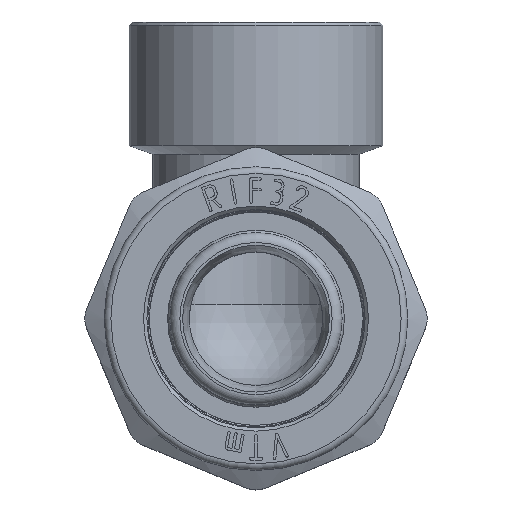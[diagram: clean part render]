
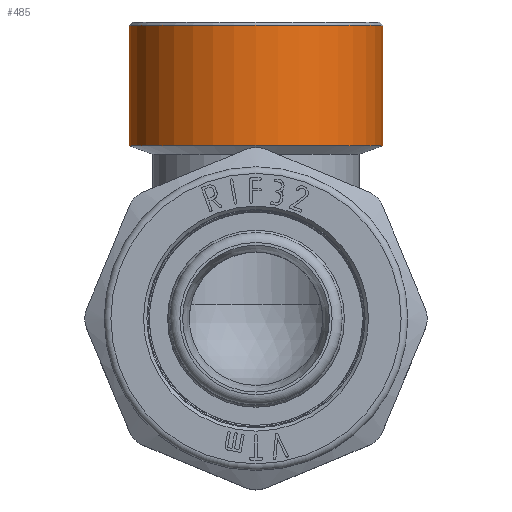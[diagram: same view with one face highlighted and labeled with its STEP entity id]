
A CAD part, top view. The second image highlights one B-rep face of the part: STEP entity #485.
In plain terms, the highlighted cylindrical face has radius 19 mm (diameter 38 mm), a full revolution.
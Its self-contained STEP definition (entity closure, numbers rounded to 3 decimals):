
#485=ADVANCED_FACE('',(#3535,#3537),#3539,.T.);
#3535=FACE_OUTER_BOUND('',#3536,.T.);
#3536=EDGE_LOOP('',(#6780));
#3537=FACE_OUTER_BOUND('',#3538,.T.);
#3538=EDGE_LOOP('',(#6781));
#3539=CYLINDRICAL_SURFACE('',#3540,19.);
#3540=AXIS2_PLACEMENT_3D('',#3541,#3542,#3543);
#3541=CARTESIAN_POINT('',(0.,26.,0.));
#3542=DIRECTION('',(0.,1.,0.));
#3543=DIRECTION('',(-1.,0.,0.));
#6780=ORIENTED_EDGE('',*,*,#8109,.F.);
#6781=ORIENTED_EDGE('',*,*,#7973,.F.);
#7973=EDGE_CURVE('',#9941,#9941,#9942,.F.);
#8109=EDGE_CURVE('',#10146,#10146,#10147,.T.);
#9941=VERTEX_POINT('',#16568);
#9942=CIRCLE('',#16569,19.);
#10146=VERTEX_POINT('',#17047);
#10147=CIRCLE('',#17048,19.);
#16568=CARTESIAN_POINT('',(-19.,26.,0.));
#16569=AXIS2_PLACEMENT_3D('',#16570,#16571,#16572);
#16570=CARTESIAN_POINT('',(0.,26.,0.));
#16571=DIRECTION('',(0.,1.,0.));
#16572=DIRECTION('',(-1.,0.,0.));
#17047=CARTESIAN_POINT('',(-19.,44.,0.));
#17048=AXIS2_PLACEMENT_3D('',#17049,#17050,#17051);
#17049=CARTESIAN_POINT('',(0.,44.,0.));
#17050=DIRECTION('',(0.,1.,0.));
#17051=DIRECTION('',(-1.,0.,0.));
